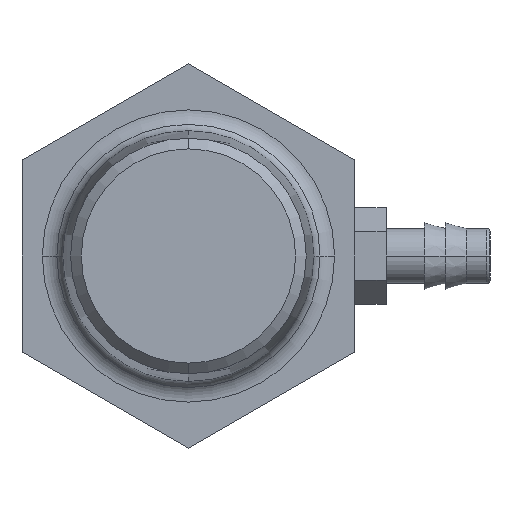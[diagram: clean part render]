
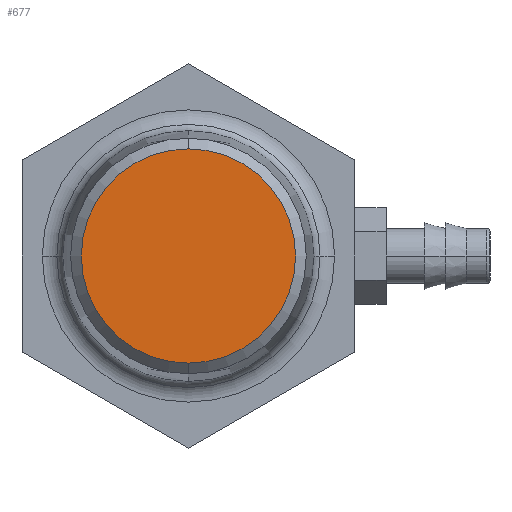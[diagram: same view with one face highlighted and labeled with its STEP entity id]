
A CAD part, left-side view. The second image highlights one B-rep face of the part: STEP entity #677.
In plain terms, the highlighted planar face has unit normal (-1, 0, 0).
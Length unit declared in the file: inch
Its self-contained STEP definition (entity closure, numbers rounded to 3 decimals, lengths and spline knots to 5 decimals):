
#363=CARTESIAN_POINT('',(-3.245,0.,0.));
#364=DIRECTION('',(-1.,0.,0.));
#365=DIRECTION('',(0.,0.,1.));
#366=AXIS2_PLACEMENT_3D('',#363,#364,#365);
#368=CARTESIAN_POINT('',(-3.245,0.,0.));
#369=DIRECTION('',(-1.,0.,0.));
#370=DIRECTION('',(0.,0.,-1.));
#371=AXIS2_PLACEMENT_3D('',#368,#369,#370);
#411=CARTESIAN_POINT('',(-3.245,0.,-0.32189));
#413=VERTEX_POINT('',#411);
#415=CARTESIAN_POINT('',(-3.245,0.,0.32189));
#417=VERTEX_POINT('',#415);
#668=CARTESIAN_POINT('',(-3.245,0.,0.16094));
#669=DIRECTION('',(-1.,0.,0.));
#670=DIRECTION('',(0.,1.,0.));
#671=AXIS2_PLACEMENT_3D('',#668,#669,#670);
#672=PLANE('',#671);
#673=ORIENTED_EDGE('',*,*,#662,.F.);
#674=ORIENTED_EDGE('',*,*,#648,.F.);
#675=EDGE_LOOP('',(#673,#674));
#676=FACE_OUTER_BOUND('',#675,.F.);
#367=CIRCLE('',#366,0.32189);
#372=CIRCLE('',#371,0.32189);
#648=EDGE_CURVE('',#413,#417,#372,.T.);
#662=EDGE_CURVE('',#417,#413,#367,.T.);
#677=ADVANCED_FACE('',(#676),#672,.T.);
